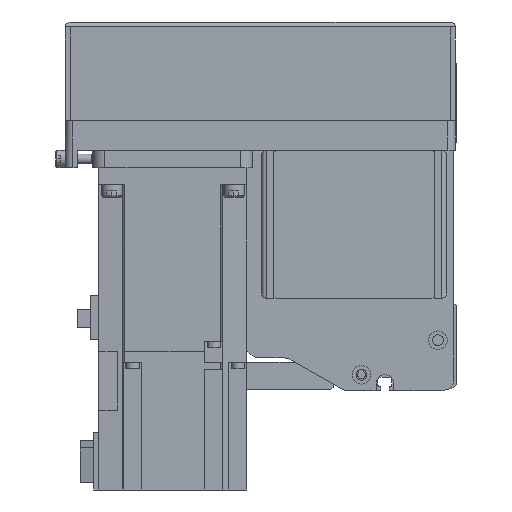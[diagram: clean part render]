
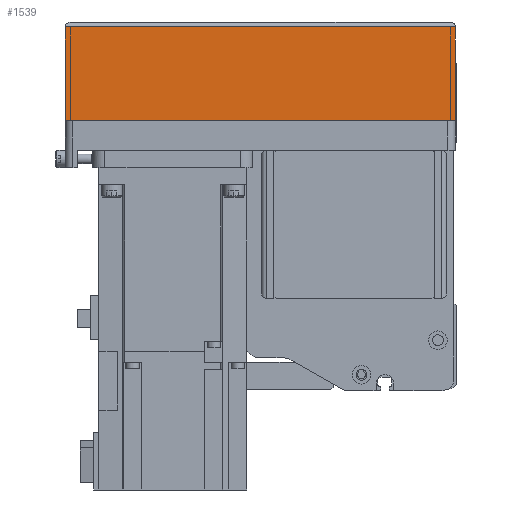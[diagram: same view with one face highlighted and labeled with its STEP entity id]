
A CAD part, left-side view. The second image highlights one B-rep face of the part: STEP entity #1539.
In plain terms, the highlighted planar face has unit normal (-1, 0, 0) as drawn and (0, 1, 0) by its records, which use the part's own axes.
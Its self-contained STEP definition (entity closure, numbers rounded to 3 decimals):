
#1539 = ADVANCED_FACE( '', ( #3827 ), #3828, .T. );
#3827 = FACE_OUTER_BOUND( '', #7083, .T. );
#3828 = PLANE( '', #7084 );
#7083 = EDGE_LOOP( '', ( #11411, #11412, #11413, #11414 ) );
#7084 = AXIS2_PLACEMENT_3D( '', #11415, #11416, #11417 );
#11411 = ORIENTED_EDGE( '', *, *, #19585, .F. );
#11412 = ORIENTED_EDGE( '', *, *, #19586, .F. );
#11413 = ORIENTED_EDGE( '', *, *, #19587, .T. );
#11414 = ORIENTED_EDGE( '', *, *, #19588, .T. );
#11415 = CARTESIAN_POINT( '', ( -158., 39., -50. ) );
#11416 = DIRECTION( '', ( 0., 1., 0. ) );
#11417 = DIRECTION( '', ( 0., 0., 1. ) );
#19585 = EDGE_CURVE( '', #23795, #23796, #23797, .T. );
#19586 = EDGE_CURVE( '', #23798, #23795, #23799, .T. );
#19587 = EDGE_CURVE( '', #23798, #23800, #23801, .T. );
#19588 = EDGE_CURVE( '', #23800, #23796, #23802, .T. );
#23795 = VERTEX_POINT( '', #29910 );
#23796 = VERTEX_POINT( '', #29911 );
#23797 = LINE( '', #29912, #29913 );
#23798 = VERTEX_POINT( '', #29914 );
#23799 = LINE( '', #29915, #29916 );
#23800 = VERTEX_POINT( '', #29917 );
#23801 = LINE( '', #29918, #29919 );
#23802 = LINE( '', #29920, #29921 );
#29910 = CARTESIAN_POINT( '', ( 0., 39., -50. ) );
#29911 = CARTESIAN_POINT( '', ( 0., 39., -12.1 ) );
#29912 = CARTESIAN_POINT( '', ( 0., 39., -50. ) );
#29913 = VECTOR( '', #35916, 1000. );
#29914 = CARTESIAN_POINT( '', ( -158., 39., -50. ) );
#29915 = CARTESIAN_POINT( '', ( -158., 39., -50. ) );
#29916 = VECTOR( '', #35917, 1000. );
#29917 = CARTESIAN_POINT( '', ( -158., 39., -12.1 ) );
#29918 = CARTESIAN_POINT( '', ( -158., 39., -50. ) );
#29919 = VECTOR( '', #35918, 1000. );
#29920 = CARTESIAN_POINT( '', ( -158., 39., -12.1 ) );
#29921 = VECTOR( '', #35919, 1000. );
#35916 = DIRECTION( '', ( 0., 0., 1. ) );
#35917 = DIRECTION( '', ( 1., 0., 0. ) );
#35918 = DIRECTION( '', ( 0., 0., 1. ) );
#35919 = DIRECTION( '', ( 1., 0., 0. ) );
